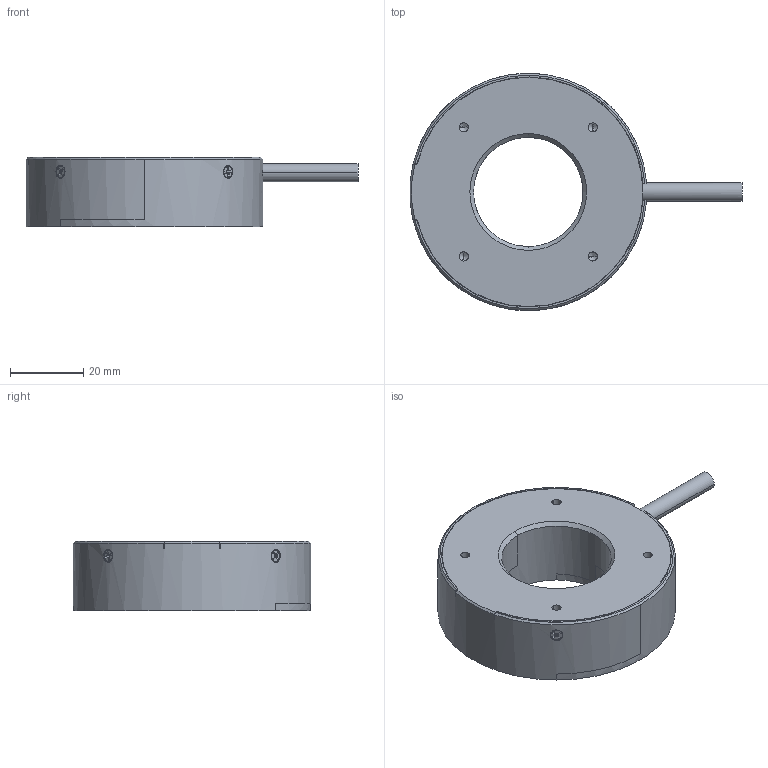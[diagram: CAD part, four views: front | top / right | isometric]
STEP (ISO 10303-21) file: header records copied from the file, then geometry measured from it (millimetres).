
FILE_DESCRIPTION((''),'2;1');
FILE_NAME('MV-LRDS-H-65-90','2022-09-02T13:50:50',('qiaoxuan5'),(''),'CREO PARAMETRIC BY PTC INC, 2020044','CREO PARAMETRIC BY PTC INC, 2020044','');
FILE_SCHEMA(('CONFIG_CONTROL_DESIGN'));
Length unit declared in the file: metre
Products named in the file (1): MV-LRDS-H-65-90
Bounding box: 90.94 x 65 x 19 mm (x, y, z)
Volume: 49700.2 mm3; surface area: 14150.7 mm2
Topology: 1 solids, 9 shells, 428 faces, 1059 edges, 647 vertices
Faces by surface type: plane 255, cylinder 111, cone 62
Entity records: 13045 total; most frequent: CARTESIAN_POINT 2973, ORIENTED_EDGE 2086, DIRECTION 2046, EDGE_CURVE 1043, VECTOR 684, LINE 684, AXIS2_PLACEMENT_3D 681, VERTEX_POINT 647
